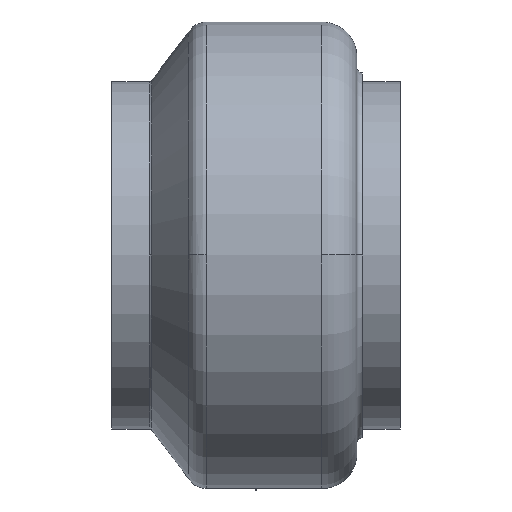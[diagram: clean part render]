
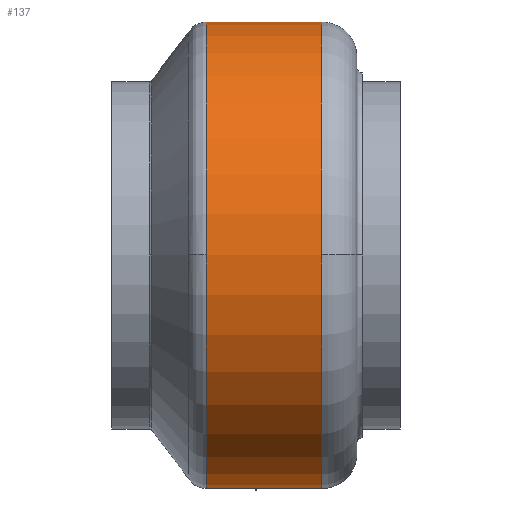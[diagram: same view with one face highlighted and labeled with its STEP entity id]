
A CAD part, top view. The second image highlights one B-rep face of the part: STEP entity #137.
In plain terms, the highlighted cylindrical face has radius 166.5 mm (diameter 333 mm), a partial arc.
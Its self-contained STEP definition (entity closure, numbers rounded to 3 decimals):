
#137=ADVANCED_FACE('',(#371),#372,.T.);
#371=FACE_OUTER_BOUND('',#737,.T.);
#372=CYLINDRICAL_SURFACE('',#738,166.5);
#737=EDGE_LOOP('',(#1113,#1114,#1115,#1116,#1117,#1118,#1119,#1120));
#738=AXIS2_PLACEMENT_3D('',#1121,#1122,#1123);
#1113=ORIENTED_EDGE('',*,*,#2128,.F.);
#1114=ORIENTED_EDGE('',*,*,#2129,.T.);
#1115=ORIENTED_EDGE('',*,*,#2130,.T.);
#1116=ORIENTED_EDGE('',*,*,#2131,.F.);
#1117=ORIENTED_EDGE('',*,*,#2132,.T.);
#1118=ORIENTED_EDGE('',*,*,#2133,.F.);
#1119=ORIENTED_EDGE('',*,*,#2134,.F.);
#1120=ORIENTED_EDGE('',*,*,#2124,.F.);
#1121=CARTESIAN_POINT('',(5.8,0.0,0.0));
#1122=DIRECTION('',(-1.0,0.0,0.0));
#1123=DIRECTION('',(0.0,1.0,0.0));
#2124=EDGE_CURVE('',#2538,#2540,#2541,.T.);
#2128=EDGE_CURVE('',#2546,#2538,#2547,.T.);
#2129=EDGE_CURVE('',#2546,#2548,#2549,.T.);
#2130=EDGE_CURVE('',#2548,#2550,#2551,.T.);
#2131=EDGE_CURVE('',#2552,#2550,#2553,.T.);
#2132=EDGE_CURVE('',#2552,#2554,#2555,.T.);
#2133=EDGE_CURVE('',#2556,#2554,#2557,.T.);
#2134=EDGE_CURVE('',#2540,#2556,#2558,.T.);
#2538=VERTEX_POINT('',#3144);
#2540=VERTEX_POINT('',#3146);
#2541=CIRCLE('',#3147,166.5);
#2546=VERTEX_POINT('',#3152);
#2547=LINE('',#3153,#3154);
#2548=VERTEX_POINT('',#3155);
#2549=CIRCLE('',#3156,166.5);
#2550=VERTEX_POINT('',#3157);
#2551=CIRCLE('',#3158,166.5);
#2552=VERTEX_POINT('',#3159);
#2553=LINE('',#3160,#3161);
#2554=VERTEX_POINT('',#3162);
#2555=B_SPLINE_CURVE_WITH_KNOTS('',3,(#3163,#3164,#3165,#3166,#3167,#3168,#3169,#3170,#3171,#3172,#3173,#3174,#3175,#3176,#3177,#3178,#3179,#3180,#3181,#3182,#3183,#3184,#3185,#3186,#3187,#3188,#3189,#3190,#3191,#3192,#3193,#3194,#3195,#3196,#3197,#3198,#3199,#3200,#3201,#3202,#3203,#3204,#3205,#3206,#3207,#3208,#3209,#3210,#3211,#3212,#3213,#3214,#3215,#3216,#3217,#3218,#3219,#3220,#3221,#3222,#3223,#3224,#3225,#3226,#3227,#3228,#3229,#3230,#3231,#3232,#3233,#3234,#3235,#3236,#3237,#3238,#3239,#3240,#3241,#3242,#3243,#3244),.UNSPECIFIED.,.F.,.F.,(4,2,2,2,2,2,2,2,2,2,2,2,2,2,2,2,2,2,2,2,2,2,2,2,2,2,2,2,2,2,2,2,2,2,2,2,2,2,2,2,4),(0.001,0.002,0.002,0.002,0.002,0.002,0.002,0.002,0.002,0.002,0.002,0.002,0.003,0.003,0.003,0.003,0.003,0.003,0.003,0.003,0.003,0.003,0.003,0.003,0.003,0.003,0.003,0.003,0.003,0.003,0.003,0.003,0.004,0.004,0.004,0.004,0.004,0.004,0.004,0.004,0.004),.UNSPECIFIED.);
#2556=VERTEX_POINT('',#3245);
#2557=LINE('',#3246,#3247);
#2558=CIRCLE('',#3248,166.5);
#3144=CARTESIAN_POINT('',(47.0,166.5,0.0));
#3146=CARTESIAN_POINT('',(47.0,0.,166.5));
#3147=AXIS2_PLACEMENT_3D('',#4378,#4379,#4380);
#3152=CARTESIAN_POINT('',(-35.4,166.5,0.0));
#3153=CARTESIAN_POINT('',(5.8,166.5,0.));
#3154=VECTOR('',#4387,1.0);
#3155=CARTESIAN_POINT('',(-35.4,0.,166.5));
#3156=AXIS2_PLACEMENT_3D('',#4388,#4389,#4390);
#3157=CARTESIAN_POINT('',(-35.4,-166.5,0.));
#3158=AXIS2_PLACEMENT_3D('',#4391,#4392,#4393);
#3159=CARTESIAN_POINT('',(-0.001,-166.5,0.));
#3160=CARTESIAN_POINT('',(5.8,-166.5,0.));
#3161=VECTOR('',#4394,1.0);
#3162=CARTESIAN_POINT('',(0.001,-166.5,0.));
#3163=CARTESIAN_POINT('',(-0.001,-166.5,0.));
#3164=CARTESIAN_POINT('',(-0.001,-166.5,0.));
#3165=CARTESIAN_POINT('',(-0.001,-166.5,0.));
#3166=CARTESIAN_POINT('',(-0.001,-166.5,0.));
#3167=CARTESIAN_POINT('',(-0.001,-166.5,0.));
#3168=CARTESIAN_POINT('',(-0.001,-166.5,0.));
#3169=CARTESIAN_POINT('',(-0.001,-166.5,0.));
#3170=CARTESIAN_POINT('',(-0.001,-166.5,0.));
#3171=CARTESIAN_POINT('',(-0.001,-166.5,0.));
#3172=CARTESIAN_POINT('',(-0.001,-166.5,0.));
#3173=CARTESIAN_POINT('',(-0.001,-166.5,0.));
#3174=CARTESIAN_POINT('',(-0.001,-166.5,0.));
#3175=CARTESIAN_POINT('',(-0.001,-166.5,0.001));
#3176=CARTESIAN_POINT('',(-0.001,-166.5,0.001));
#3177=CARTESIAN_POINT('',(-0.001,-166.5,0.001));
#3178=CARTESIAN_POINT('',(-0.001,-166.5,0.001));
#3179=CARTESIAN_POINT('',(-0.001,-166.5,0.001));
#3180=CARTESIAN_POINT('',(-0.001,-166.5,0.001));
#3181=CARTESIAN_POINT('',(-0.001,-166.5,0.001));
#3182=CARTESIAN_POINT('',(-0.001,-166.5,0.001));
#3183=CARTESIAN_POINT('',(-0.001,-166.5,0.001));
#3184=CARTESIAN_POINT('',(-0.001,-166.5,0.001));
#3185=CARTESIAN_POINT('',(0.,-166.5,0.001));
#3186=CARTESIAN_POINT('',(0.,-166.5,0.001));
#3187=CARTESIAN_POINT('',(0.,-166.5,0.001));
#3188=CARTESIAN_POINT('',(0.,-166.5,0.001));
#3189=CARTESIAN_POINT('',(0.,-166.5,0.001));
#3190=CARTESIAN_POINT('',(0.,-166.5,0.001));
#3191=CARTESIAN_POINT('',(0.,-166.5,0.001));
#3192=CARTESIAN_POINT('',(0.,-166.5,0.001));
#3193=CARTESIAN_POINT('',(0.,-166.5,0.001));
#3194=CARTESIAN_POINT('',(0.,-166.5,0.001));
#3195=CARTESIAN_POINT('',(0.,-166.5,0.001));
#3196=CARTESIAN_POINT('',(0.,-166.5,0.001));
#3197=CARTESIAN_POINT('',(0.,-166.5,0.001));
#3198=CARTESIAN_POINT('',(0.,-166.5,0.001));
#3199=CARTESIAN_POINT('',(0.,-166.5,0.001));
#3200=CARTESIAN_POINT('',(0.,-166.5,0.001));
#3201=CARTESIAN_POINT('',(0.,-166.5,0.001));
#3202=CARTESIAN_POINT('',(0.,-166.5,0.001));
#3203=CARTESIAN_POINT('',(0.,-166.5,0.001));
#3204=CARTESIAN_POINT('',(0.,-166.5,0.001));
#3205=CARTESIAN_POINT('',(0.,-166.5,0.001));
#3206=CARTESIAN_POINT('',(0.,-166.5,0.001));
#3207=CARTESIAN_POINT('',(0.,-166.5,0.001));
#3208=CARTESIAN_POINT('',(0.,-166.5,0.001));
#3209=CARTESIAN_POINT('',(0.,-166.5,0.001));
#3210=CARTESIAN_POINT('',(0.,-166.5,0.001));
#3211=CARTESIAN_POINT('',(0.,-166.5,0.001));
#3212=CARTESIAN_POINT('',(0.,-166.5,0.001));
#3213=CARTESIAN_POINT('',(0.,-166.5,0.001));
#3214=CARTESIAN_POINT('',(0.,-166.5,0.001));
#3215=CARTESIAN_POINT('',(0.,-166.5,0.001));
#3216=CARTESIAN_POINT('',(0.,-166.5,0.001));
#3217=CARTESIAN_POINT('',(0.,-166.5,0.001));
#3218=CARTESIAN_POINT('',(0.,-166.5,0.001));
#3219=CARTESIAN_POINT('',(0.,-166.5,0.001));
#3220=CARTESIAN_POINT('',(0.,-166.5,0.001));
#3221=CARTESIAN_POINT('',(0.,-166.5,0.001));
#3222=CARTESIAN_POINT('',(0.,-166.5,0.001));
#3223=CARTESIAN_POINT('',(0.001,-166.5,0.001));
#3224=CARTESIAN_POINT('',(0.001,-166.5,0.001));
#3225=CARTESIAN_POINT('',(0.001,-166.5,0.001));
#3226=CARTESIAN_POINT('',(0.001,-166.5,0.001));
#3227=CARTESIAN_POINT('',(0.001,-166.5,0.001));
#3228=CARTESIAN_POINT('',(0.001,-166.5,0.001));
#3229=CARTESIAN_POINT('',(0.001,-166.5,0.001));
#3230=CARTESIAN_POINT('',(0.001,-166.5,0.001));
#3231=CARTESIAN_POINT('',(0.001,-166.5,0.001));
#3232=CARTESIAN_POINT('',(0.001,-166.5,0.001));
#3233=CARTESIAN_POINT('',(0.001,-166.5,0.));
#3234=CARTESIAN_POINT('',(0.001,-166.5,0.));
#3235=CARTESIAN_POINT('',(0.001,-166.5,0.));
#3236=CARTESIAN_POINT('',(0.001,-166.5,0.));
#3237=CARTESIAN_POINT('',(0.001,-166.5,0.));
#3238=CARTESIAN_POINT('',(0.001,-166.5,0.));
#3239=CARTESIAN_POINT('',(0.001,-166.5,0.));
#3240=CARTESIAN_POINT('',(0.001,-166.5,0.));
#3241=CARTESIAN_POINT('',(0.001,-166.5,0.));
#3242=CARTESIAN_POINT('',(0.001,-166.5,0.));
#3243=CARTESIAN_POINT('',(0.001,-166.5,0.));
#3244=CARTESIAN_POINT('',(0.001,-166.5,0.));
#3245=CARTESIAN_POINT('',(47.0,-166.5,0.));
#3246=CARTESIAN_POINT('',(5.8,-166.5,0.));
#3247=VECTOR('',#4395,1.0);
#3248=AXIS2_PLACEMENT_3D('',#4396,#4397,#4398);
#4378=CARTESIAN_POINT('',(47.0,0.0,0.0));
#4379=DIRECTION('',(1.0,0.0,0.0));
#4380=DIRECTION('',(0.0,1.0,0.0));
#4387=DIRECTION('',(1.0,0.0,0.0));
#4388=CARTESIAN_POINT('',(-35.4,0.0,0.0));
#4389=DIRECTION('',(1.0,0.0,0.0));
#4390=DIRECTION('',(0.0,1.0,0.0));
#4391=CARTESIAN_POINT('',(-35.4,0.0,0.0));
#4392=DIRECTION('',(1.0,0.0,0.0));
#4393=DIRECTION('',(0.0,1.0,0.0));
#4394=DIRECTION('',(-1.0,-0.0,-0.0));
#4395=DIRECTION('',(-1.0,-0.0,-0.0));
#4396=CARTESIAN_POINT('',(47.0,0.0,0.0));
#4397=DIRECTION('',(1.0,0.0,0.0));
#4398=DIRECTION('',(0.0,1.0,0.0));
